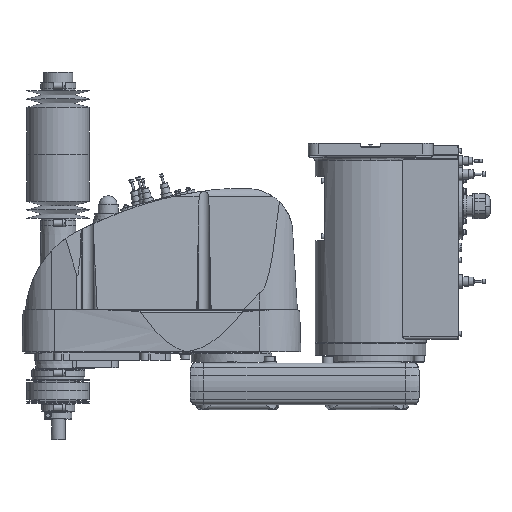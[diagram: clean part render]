
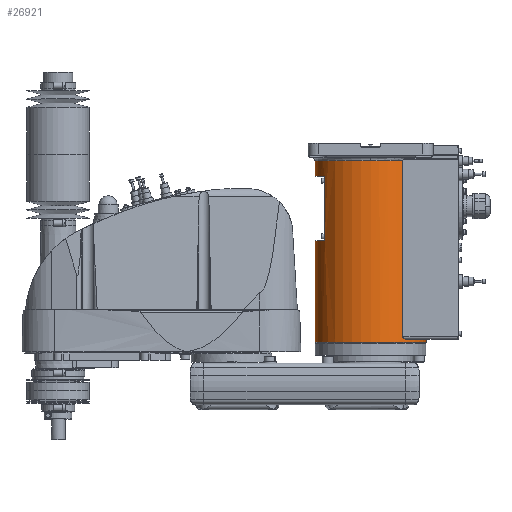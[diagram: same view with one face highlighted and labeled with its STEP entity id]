
A CAD part, top view. The second image highlights one B-rep face of the part: STEP entity #26921.
In plain terms, the highlighted cylindrical face has radius 80 mm (diameter 160 mm), a partial arc.
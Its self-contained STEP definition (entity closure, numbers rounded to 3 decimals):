
#11399 = VERTEX_POINT( '', #29725 );
#11479 = EDGE_CURVE( '', #24881, #16691, #29812, .T. );
#11649 = VERTEX_POINT( '', #29997 );
#11785 = VERTEX_POINT( '', #30144 );
#11965 = VERTEX_POINT( '', #30351 );
#13301 = VERTEX_POINT( '', #31837 );
#14791 = EDGE_CURVE( '', #11649, #23869, #33478, .T. );
#15651 = EDGE_CURVE( '', #11785, #18657, #34440, .T. );
#16691 = VERTEX_POINT( '', #35595 );
#16821 = EDGE_CURVE( '', #19421, #24881, #35740, .T. );
#17265 = EDGE_CURVE( '', #11785, #22845, #36229, .T. );
#17287 = EDGE_CURVE( '', #11965, #22789, #36257, .T. );
#18657 = VERTEX_POINT( '', #37788 );
#18899 = EDGE_CURVE( '', #18657, #19421, #38058, .T. );
#19421 = VERTEX_POINT( '', #38648 );
#21385 = EDGE_CURVE( '', #13301, #11965, #40854, .T. );
#22477 = EDGE_CURVE( '', #22845, #23869, #42080, .T. );
#22543 = EDGE_CURVE( '', #11399, #13301, #42153, .T. );
#22789 = VERTEX_POINT( '', #42425 );
#22845 = VERTEX_POINT( '', #42489 );
#23869 = VERTEX_POINT( '', #43622 );
#24881 = VERTEX_POINT( '', #44786 );
#26227 = EDGE_CURVE( '', #22789, #11649, #46299, .T. );
#26685 = EDGE_CURVE( '', #16691, #11399, #46813, .T. );
#26921 = ADVANCED_FACE( '', ( #47084 ), #47085, .T. );
#29725 = CARTESIAN_POINT( '', ( -80., 30., 0. ) );
#29812 = CIRCLE( '', #51630, 80. );
#29997 = CARTESIAN_POINT( '', ( 46.637, 37.5, 65. ) );
#30144 = CARTESIAN_POINT( '', ( -80., 291.5, 0. ) );
#30351 = CARTESIAN_POINT( '', ( 80., 34.5, 0. ) );
#31837 = CARTESIAN_POINT( '', ( 80., 30., 0. ) );
#33478 = LINE( '', #57326, #57327 );
#34440 = LINE( '', #58821, #58822 );
#35595 = CARTESIAN_POINT( '', ( -80., 176., 0. ) );
#35740 = LINE( '', #60760, #60761 );
#36229 = CIRCLE( '', #61480, 80. );
#36257 = CIRCLE( '', #61513, 80. );
#37788 = CARTESIAN_POINT( '', ( -80., 269., 0. ) );
#38058 = CIRCLE( '', #64262, 80. );
#38648 = CARTESIAN_POINT( '', ( -66., 269., 45.211 ) );
#40854 = LINE( '', #68725, #68726 );
#42080 = CIRCLE( '', #70619, 80. );
#42153 = CIRCLE( '', #70733, 80. );
#42425 = CARTESIAN_POINT( '', ( 50.557, 34.5, 62. ) );
#42489 = CARTESIAN_POINT( '', ( 0., 291.5, 80. ) );
#43622 = CARTESIAN_POINT( '', ( 46.637, 291.5, 65. ) );
#44786 = CARTESIAN_POINT( '', ( -66., 176., 45.211 ) );
#46299 = B_SPLINE_CURVE_WITH_KNOTS( '', 3, ( #77003, #77004, #77005, #77006, #77007, #77008, #77009, #77010, #77011, #77012, #77013, #77014, #77015, #77016, #77017, #77018 ), .UNSPECIFIED., .F., .F., ( 4, 2, 2, 2, 2, 2, 2, 4 ), ( -6.06, -5.11, -4.16, -2.26, -1.695, -1.13, -0.565, 0. ), .UNSPECIFIED. );
#46813 = LINE( '', #77750, #77751 );
#47084 = FACE_OUTER_BOUND( '', #78141, .T. );
#47085 = CYLINDRICAL_SURFACE( '', #78142, 80. );
#51630 = AXIS2_PLACEMENT_3D( '', #81444, #81445, #81446 );
#57326 = CARTESIAN_POINT( '', ( 46.637, 164.5, 65. ) );
#57327 = VECTOR( '', #85562, 1. );
#58821 = CARTESIAN_POINT( '', ( -80., 160.75, 0. ) );
#58822 = VECTOR( '', #86725, 1. );
#60760 = CARTESIAN_POINT( '', ( -66., 222.5, 45.211 ) );
#60761 = VECTOR( '', #88267, 1. );
#61480 = AXIS2_PLACEMENT_3D( '', #88799, #88800, #88801 );
#61513 = AXIS2_PLACEMENT_3D( '', #88840, #88841, #88842 );
#64262 = AXIS2_PLACEMENT_3D( '', #90944, #90945, #90946 );
#68725 = CARTESIAN_POINT( '', ( 80., 160.75, 0. ) );
#68726 = VECTOR( '', #94161, 1. );
#70619 = AXIS2_PLACEMENT_3D( '', #95614, #95615, #95616 );
#70733 = AXIS2_PLACEMENT_3D( '', #95707, #95708, #95709 );
#77003 = CARTESIAN_POINT( '', ( 50.557, 34.5, 62. ) );
#77004 = CARTESIAN_POINT( '', ( 50.312, 34.5, 62.2 ) );
#77005 = CARTESIAN_POINT( '', ( 50.054, 34.52, 62.407 ) );
#77006 = CARTESIAN_POINT( '', ( 49.533, 34.607, 62.822 ) );
#77007 = CARTESIAN_POINT( '', ( 49.269, 34.674, 63.029 ) );
#77008 = CARTESIAN_POINT( '', ( 48.491, 34.945, 63.632 ) );
#77009 = CARTESIAN_POINT( '', ( 47.991, 35.221, 64.009 ) );
#77010 = CARTESIAN_POINT( '', ( 47.455, 35.701, 64.405 ) );
#77011 = CARTESIAN_POINT( '', ( 47.333, 35.827, 64.495 ) );
#77012 = CARTESIAN_POINT( '', ( 47.106, 36.105, 64.661 ) );
#77013 = CARTESIAN_POINT( '', ( 47.002, 36.258, 64.736 ) );
#77014 = CARTESIAN_POINT( '', ( 46.828, 36.585, 64.863 ) );
#77015 = CARTESIAN_POINT( '', ( 46.758, 36.761, 64.913 ) );
#77016 = CARTESIAN_POINT( '', ( 46.662, 37.124, 64.982 ) );
#77017 = CARTESIAN_POINT( '', ( 46.637, 37.312, 65. ) );
#77018 = CARTESIAN_POINT( '', ( 46.637, 37.5, 65. ) );
#77750 = CARTESIAN_POINT( '', ( -80., 160.75, 0. ) );
#77751 = VECTOR( '', #101384, 1. );
#78141 = EDGE_LOOP( '', ( #101737, #101738, #101739, #101740, #101741, #101742, #101743, #101744, #101745, #101746, #101747, #101748 ) );
#78142 = AXIS2_PLACEMENT_3D( '', #101749, #101750, #101751 );
#81444 = CARTESIAN_POINT( '', ( 0., 176., 0. ) );
#81445 = DIRECTION( '', ( 0., -1., 0. ) );
#81446 = DIRECTION( '', ( 1., 0., 0. ) );
#85562 = DIRECTION( '', ( 0., 1., 0. ) );
#86725 = DIRECTION( '', ( 0., -1., 0. ) );
#88267 = DIRECTION( '', ( 0., -1., 0. ) );
#88799 = CARTESIAN_POINT( '', ( 0., 291.5, 0. ) );
#88800 = DIRECTION( '', ( 0., 1., 0. ) );
#88801 = DIRECTION( '', ( 1., 0., 0. ) );
#88840 = CARTESIAN_POINT( '', ( 0., 34.5, 0. ) );
#88841 = DIRECTION( '', ( 0., -1., 0. ) );
#88842 = DIRECTION( '', ( 1., 0., 0. ) );
#90944 = CARTESIAN_POINT( '', ( 0., 269., 0. ) );
#90945 = DIRECTION( '', ( 0., 1., 0. ) );
#90946 = DIRECTION( '', ( 1., 0., 0. ) );
#94161 = DIRECTION( '', ( 0., 1., 0. ) );
#95614 = CARTESIAN_POINT( '', ( 0., 291.5, 0. ) );
#95615 = DIRECTION( '', ( 0., 1., 0. ) );
#95616 = DIRECTION( '', ( 1., 0., 0. ) );
#95707 = CARTESIAN_POINT( '', ( 0., 30., 0. ) );
#95708 = DIRECTION( '', ( 0., 1., 0. ) );
#95709 = DIRECTION( '', ( 1., 0., 0. ) );
#101384 = DIRECTION( '', ( 0., -1., 0. ) );
#101737 = ORIENTED_EDGE( '', *, *, #21385, .T. );
#101738 = ORIENTED_EDGE( '', *, *, #17287, .T. );
#101739 = ORIENTED_EDGE( '', *, *, #26227, .T. );
#101740 = ORIENTED_EDGE( '', *, *, #14791, .T. );
#101741 = ORIENTED_EDGE( '', *, *, #22477, .F. );
#101742 = ORIENTED_EDGE( '', *, *, #17265, .F. );
#101743 = ORIENTED_EDGE( '', *, *, #15651, .T. );
#101744 = ORIENTED_EDGE( '', *, *, #18899, .T. );
#101745 = ORIENTED_EDGE( '', *, *, #16821, .T. );
#101746 = ORIENTED_EDGE( '', *, *, #11479, .T. );
#101747 = ORIENTED_EDGE( '', *, *, #26685, .T. );
#101748 = ORIENTED_EDGE( '', *, *, #22543, .T. );
#101749 = CARTESIAN_POINT( '', ( 0., 160.75, 0. ) );
#101750 = DIRECTION( '', ( 0., -1., 0. ) );
#101751 = DIRECTION( '', ( 1., 0., 0. ) );
